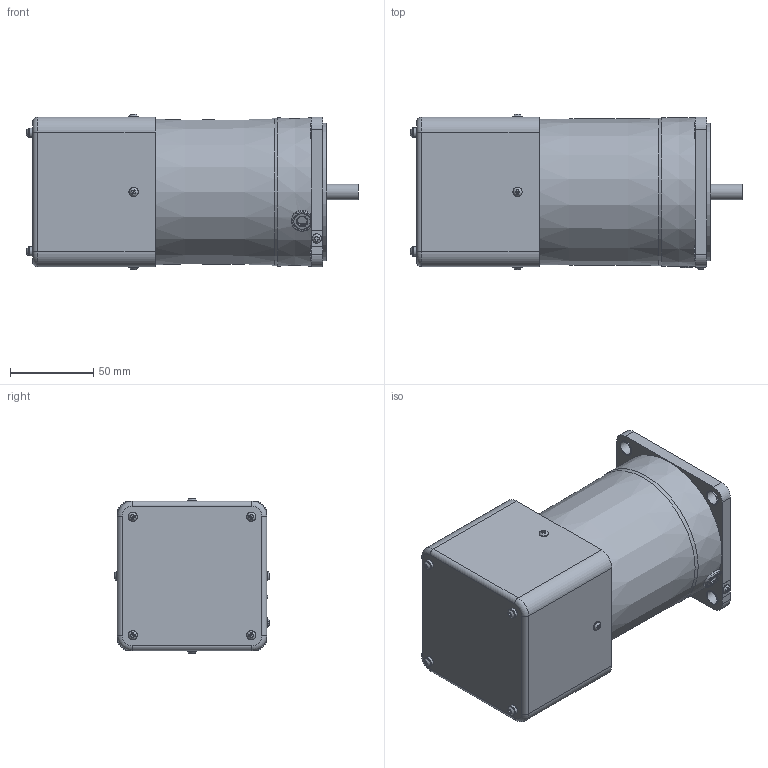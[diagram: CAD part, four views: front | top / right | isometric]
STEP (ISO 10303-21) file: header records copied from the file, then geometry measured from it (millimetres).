
FILE_DESCRIPTION(/* description */ (''),/* implementation_level */ '2;1');
FILE_NAME(/* name */ 'Y:\제품연구개발\3. 도면\3. 고객배포용\3D_홈페이지용\01-1 Standard AC SG Series\05-2 SPEED CONTROL INDUCTION(REVERSIBLE) MOTORS(S12_S24)\SG9I(R)90_-S12(S24)\SG9I90G_-S12(24).stp',/* time_stamp */ '2023-12-07T13:25:40+09:00',/* author */ ('shyi1037'),/* organization */ (''),/* preprocessor_version */ 'ST-DEVELOPER v18.1',/* originating_system */ 'Autodesk Inventor 2022',/* authorisation */ '');
FILE_SCHEMA (('AUTOMOTIVE_DESIGN { 1 0 10303 214 3 1 1 }'));
Length unit declared in the file: millimetre
Products named in the file (1): SG9I90G_-S12(24)
Bounding box: 199.85 x 93.89 x 93.89 mm (x, y, z)
Volume: 963338.8 mm3; surface area: 104632.2 mm2
Topology: 1 solids, 7 shells, 307 faces, 767 edges, 503 vertices
Faces by surface type: plane 192, cylinder 72, torus 27, bspline 9, cone 7
Full cylindrical faces by diameter (mm): 3 x8, 4.5 x4, 5.6 x13, 6 x1, 8.5 x4, 9.33 x1, 9.5 x4, 10 x1, 40 x1, 83 x1
Entity records: 10117 total; most frequent: CARTESIAN_POINT 2536, ORIENTED_EDGE 1534, DIRECTION 1458, EDGE_CURVE 767, AXIS2_PLACEMENT_3D 527, VERTEX_POINT 503, LINE 404, VECTOR 404
